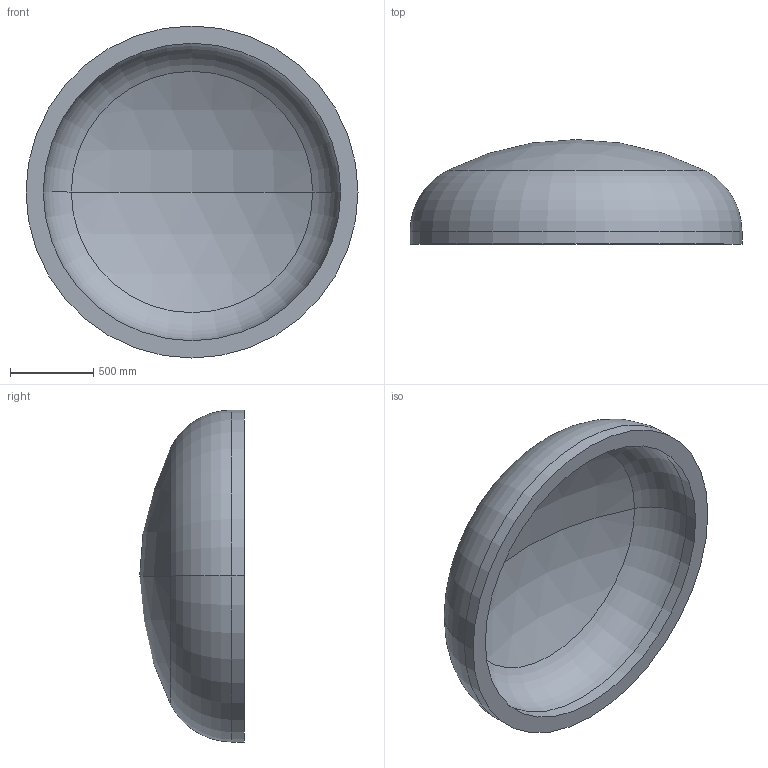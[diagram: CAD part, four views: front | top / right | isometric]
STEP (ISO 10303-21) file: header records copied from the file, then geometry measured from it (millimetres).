
FILE_DESCRIPTION (( 'STEP AP203' ), '1' );
FILE_NAME ('DIN 28013 Korbbogenform_-_Boden DIN 28013 - 2000 x 75 - I - s=104.step', '2016-07-01T14:10:28', ( '' ), ( '' ), 'SwSTEP 2.0', 'SolidWorks 2013', '' );
FILE_SCHEMA (( 'CONFIG_CONTROL_DESIGN' ));
Length unit declared in the file: millimetre
Products named in the file (1): DIN 28013 Korbbogenform_-_Boden DIN 28013 - 2000 x 75 - I - s=104
Bounding box: 2000 x 629.78 x 2000 mm (x, y, z)
Volume: 470331099.6 mm3; surface area: 9686951.1 mm2
Topology: 1 solids, 1 shells, 13 faces, 24 edges, 14 vertices
Faces by surface type: torus 4, cylinder 4, sphere 4, plane 1
Entity records: 407 total; most frequent: DIRECTION 72, CARTESIAN_POINT 52, ORIENTED_EDGE 48, AXIS2_PLACEMENT_3D 34, EDGE_CURVE 24, CIRCLE 20, EDGE_LOOP 14, VERTEX_POINT 14
